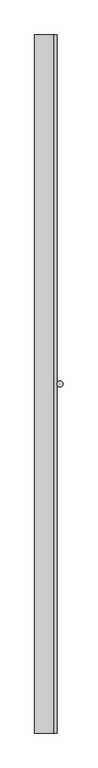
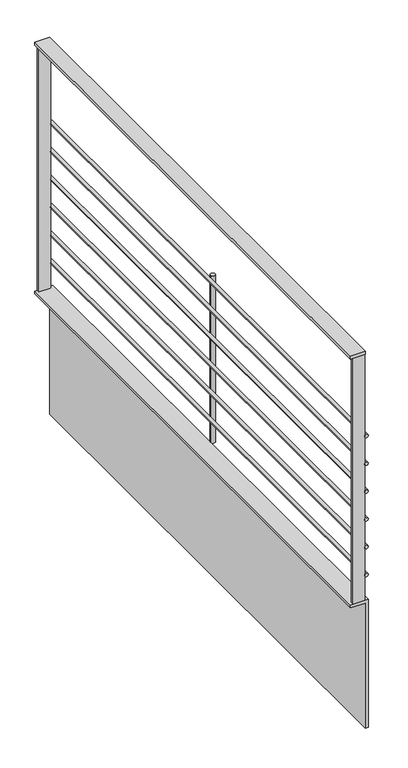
"""IFC4 building model written with IfcOpenShell, lengths in millimetres: railing geometry, Pletina y tubos pancha cubre forjado."""

from ifc_helpers import new_model, si_unit, point, frame, frame_2d, origin, place, context, project, spatial, polyline, circle_curve, trimmed, segment, composite_curve, outline, extrude, source, transform, mapped, element, save


def railing_47f48422(model_context):
    return source(origin(), model_context, "Body", "SweptSolid", [
        extrude(outline(polyline([(3100.0, 3518.9398199), (2650.0, 3518.9398199), (2650.0, 3528.9398199), (3110.0, 3528.9398199), (3110.0, 3468.9398199), (3100.0, 3468.9398199), (3100.0, 3518.9398199)])), frame((0.0, -343.1853621, 0.0), z_axis=(0.0, 1.0, 0.0), x_axis=(0.0, 0.0, 1.0)), (0.0, 0.0, 1.0), 1862.2580201),
        extrude(outline(composite_curve([segment(trimmed(circle_curve(frame_2d((3200.0, 3522.9398199)), 6.0), [point((3200.0, 3516.9398199))], [point((3200.0, 3528.9398199))], False, "CARTESIAN"), True, "CONTINUOUS"), segment(trimmed(circle_curve(frame_2d((3200.0, 3522.9398199)), 6.0), [point((3200.0, 3528.9398199))], [point((3200.0, 3516.9398199))], False, "CARTESIAN"), True, "CONTINUOUS")], self_intersect=False)), frame((0.0, -343.1853621, 0.0), z_axis=(0.0, 1.0, 0.0), x_axis=(0.0, 0.0, 1.0)), (0.0, 0.0, 1.0), 1862.2580201),
        extrude(outline(composite_curve([segment(trimmed(circle_curve(frame_2d((3300.0, 3522.9398199)), 6.0), [point((3300.0, 3516.9398199))], [point((3300.0, 3528.9398199))], False, "CARTESIAN"), True, "CONTINUOUS"), segment(trimmed(circle_curve(frame_2d((3300.0, 3522.9398199)), 6.0), [point((3300.0, 3528.9398199))], [point((3300.0, 3516.9398199))], False, "CARTESIAN"), True, "CONTINUOUS")], self_intersect=False)), frame((0.0, -343.1853621, 0.0), z_axis=(0.0, 1.0, 0.0), x_axis=(0.0, 0.0, 1.0)), (0.0, 0.0, 1.0), 1862.2580201),
        extrude(outline(composite_curve([segment(trimmed(circle_curve(frame_2d((3400.0, 3522.9398199)), 6.0), [point((3400.0, 3516.9398199))], [point((3400.0, 3528.9398199))], False, "CARTESIAN"), True, "CONTINUOUS"), segment(trimmed(circle_curve(frame_2d((3400.0, 3522.9398199)), 6.0), [point((3400.0, 3528.9398199))], [point((3400.0, 3516.9398199))], False, "CARTESIAN"), True, "CONTINUOUS")], self_intersect=False)), frame((0.0, -343.1853621, 0.0), z_axis=(0.0, 1.0, 0.0), x_axis=(0.0, 0.0, 1.0)), (0.0, 0.0, 1.0), 1862.2580201),
        extrude(outline(composite_curve([segment(trimmed(circle_curve(frame_2d((3500.0, 3522.9398199)), 6.0), [point((3500.0, 3516.9398199))], [point((3500.0, 3528.9398199))], False, "CARTESIAN"), True, "CONTINUOUS"), segment(trimmed(circle_curve(frame_2d((3500.0, 3522.9398199)), 6.0), [point((3500.0, 3528.9398199))], [point((3500.0, 3516.9398199))], False, "CARTESIAN"), True, "CONTINUOUS")], self_intersect=False)), frame((0.0, -343.1853621, 0.0), z_axis=(0.0, 1.0, 0.0), x_axis=(0.0, 0.0, 1.0)), (0.0, 0.0, 1.0), 1862.2580201),
        extrude(outline(composite_curve([segment(trimmed(circle_curve(frame_2d((3600.0, 3522.9398199)), 6.0), [point((3600.0, 3516.9398199))], [point((3600.0, 3528.9398199))], False, "CARTESIAN"), True, "CONTINUOUS"), segment(trimmed(circle_curve(frame_2d((3600.0, 3522.9398199)), 6.0), [point((3600.0, 3528.9398199))], [point((3600.0, 3516.9398199))], False, "CARTESIAN"), True, "CONTINUOUS")], self_intersect=False)), frame((0.0, -343.1853621, 0.0), z_axis=(0.0, 1.0, 0.0), x_axis=(0.0, 0.0, 1.0)), (0.0, 0.0, 1.0), 1862.2580201),
        extrude(outline(composite_curve([segment(trimmed(circle_curve(frame_2d((3700.0, 3522.9398199)), 6.0), [point((3700.0, 3516.9398199))], [point((3700.0, 3528.9398199))], False, "CARTESIAN"), True, "CONTINUOUS"), segment(trimmed(circle_curve(frame_2d((3700.0, 3522.9398199)), 6.0), [point((3700.0, 3528.9398199))], [point((3700.0, 3516.9398199))], False, "CARTESIAN"), True, "CONTINUOUS")], self_intersect=False)), frame((0.0, -343.1853621, 0.0), z_axis=(0.0, 1.0, 0.0), x_axis=(0.0, 0.0, 1.0)), (0.0, 0.0, 1.0), 1862.2580201),
        extrude(outline(polyline([(3518.9398199, -343.1853621), (3468.9398199, -343.1853621), (3468.9398199, 1519.072658), (3518.9398199, 1519.072658), (3518.9398199, -343.1853621)])), frame((0.0, 0.0, 3995.0), z_axis=(0.0, 0.0, 1.0), x_axis=(1.0, 0.0, 0.0)), (0.0, 0.0, 1.0), 10.0),
        extrude(outline(composite_curve([segment(trimmed(circle_curve(frame_2d((3536.9398199, 587.9436479)), 8.0), [point((3528.9398199, 587.9436479))], [point((3544.9398199, 587.9436479))], False, "CARTESIAN"), True, "CONTINUOUS"), segment(trimmed(circle_curve(frame_2d((3536.9398199, 587.9436479)), 8.0), [point((3544.9398199, 587.9436479))], [point((3528.9398199, 587.9436479))], False, "CARTESIAN"), True, "CONTINUOUS")], self_intersect=False)), frame((0.0, 0.0, 3110.0), z_axis=(0.0, 0.0, 1.0), x_axis=(1.0, 0.0, 0.0)), (0.0, 0.0, 1.0), 600.0),
        extrude(outline(polyline([(3476.9398199, 1509.072658), (3476.9398199, 1519.072658), (3516.9398199, 1519.072658), (3516.9398199, 1509.072658), (3476.9398199, 1509.072658)])), frame((0.0, 0.0, 3110.0), z_axis=(0.0, 0.0, 1.0), x_axis=(1.0, 0.0, 0.0)), (0.0, 0.0, 1.0), 885.0),
        extrude(outline(polyline([(3476.9398199, -343.1853621), (3476.9398199, -333.1853621), (3516.9398199, -333.1853621), (3516.9398199, -343.1853621), (3476.9398199, -343.1853621)])), frame((0.0, 0.0, 3110.0), z_axis=(0.0, 0.0, 1.0), x_axis=(1.0, 0.0, 0.0)), (0.0, 0.0, 1.0), 885.0),
    ])


if __name__ == "__main__":
    model = new_model("IFC4")
    model_context = context("Model", 3, world=origin())
    ifc_project = project(units=[si_unit("LENGTHUNIT", "METRE", prefix="MILLI")], contexts=[model_context])
    site = spatial("IfcSite", under=ifc_project)
    building = spatial("IfcBuilding", under=site)
    placement = place(None, origin())
    railing_shape = railing_47f48422(model_context)
    element("IfcRailing", 1, ObjectType="Pletina y tubos pancha cubre forjado", at=placement, inside=building, context=model_context, shape_type="MappedRepresentation", body=[
        mapped(railing_shape, transform((0.0, 0.0, 0.0), x_axis=(1.0, 0.0, 0.0), y_axis=(0.0, 1.0, 0.0), z_axis=(0.0, 0.0, 1.0))),
    ])
    save(model, "model.ifc")
